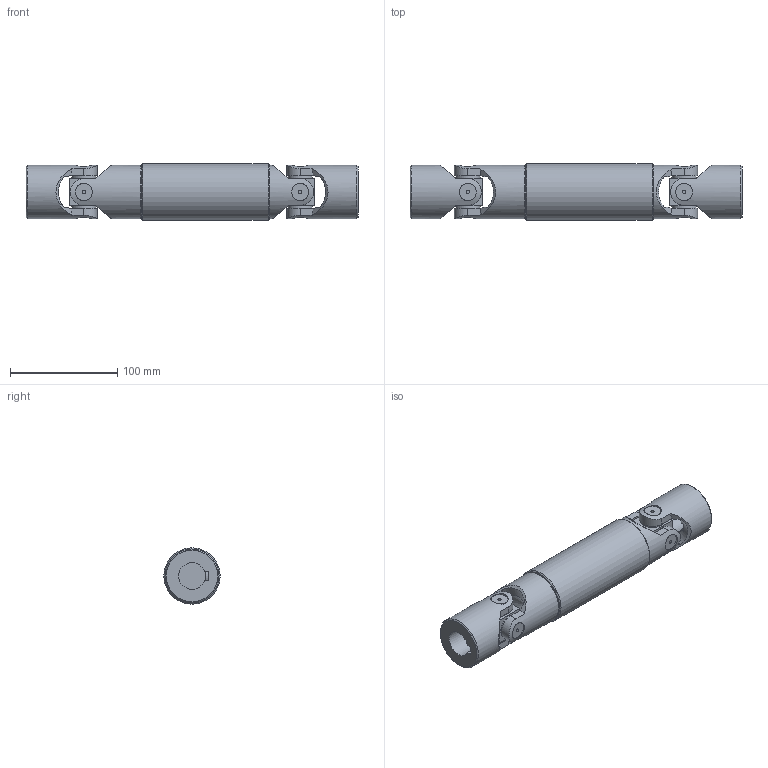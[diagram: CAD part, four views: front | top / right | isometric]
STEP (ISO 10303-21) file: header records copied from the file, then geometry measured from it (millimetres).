
FILE_DESCRIPTION(/* description */ (''),/* implementation_level */ '2;1');
FILE_NAME(/* name */ '\\SRV2016\Societa\Stefano\Disegni 3D\00Catalogo 3D\03Trasmissioni standard GA\5GA15\5GA15_SG0A2515.stp',/* time_stamp */ '2022-03-15T16:24:33+01:00',/* author */ ('acquisti'),/* organization */ (''),/* preprocessor_version */ 'ST-DEVELOPER v15.6',/* originating_system */ 'Autodesk Inventor 2015',/* authorisation */ '');
FILE_SCHEMA (('AUTOMOTIVE_DESIGN { 1 0 10303 214 3 1 1 }'));
Length unit declared in the file: millimetre
Products named in the file (5): 5G MOC; 5G SFE; 5GA15 LAI; 5GA15 LCI; 5GA15_SG0A2515
Assembly tree (6 placements, depth 2):
  5GA15_SG0A2515
    5G MOC  x2
    5G SFE  x2
    5GA15 LAI
    5GA15 LCI
Bounding box: 310 x 52.5 x 52.5 mm (x, y, z)
Volume: 447007.6 mm3; surface area: 108069.1 mm2
Topology: 6 solids, 6 shells, 204 faces, 513 edges, 345 vertices
Faces by surface type: plane 108, cylinder 68, cone 24, torus 4
Full cylindrical faces by diameter (mm): 3 x8, 16 x8, 23 x8, 28 x1, 32.4 x1, 45 x1, 50 x4, 52.5 x1
Entity records: 5370 total; most frequent: CARTESIAN_POINT 1605, DIRECTION 751, ORIENTED_EDGE 742, EDGE_CURVE 371, AXIS2_PLACEMENT_3D 299, VERTEX_POINT 269, EDGE_LOOP 210, FACE_OUTER_BOUND 158
